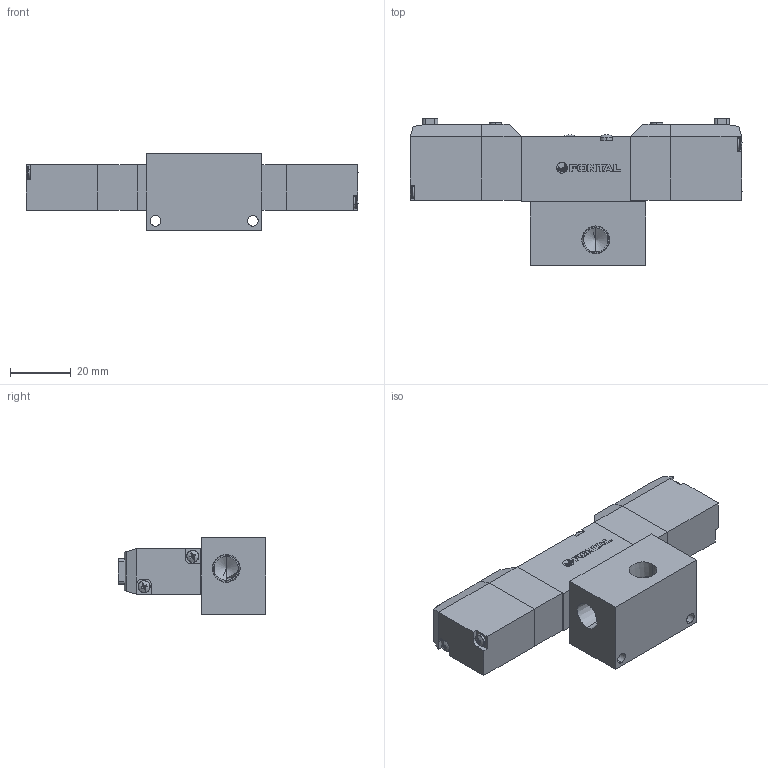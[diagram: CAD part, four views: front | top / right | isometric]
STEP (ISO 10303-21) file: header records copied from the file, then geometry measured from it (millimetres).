
FILE_DESCRIPTION (( 'STEP AP203' ), '1' );
FILE_NAME ('PCD345#-01-#-L-#.STEP', '2016-02-04T03:43:52', ( 'Sam Lin' ), ( '' ), 'SwSTEP 2.0', 'SolidWorks 2013', '' );
FILE_SCHEMA (( 'CONFIG_CONTROL_DESIGN' ));
Length unit declared in the file: metre
Products named in the file (9): PC-MARK; PC5-6; PC5-4; ISO 7045 - M2 x 10; ISO 7045 - M2.5 x 25; PC5-01-1; PC5-9-345; PCD345#-01-#-L-#; PC5-5
Assembly tree (15 placements, depth 2):
  PCD345#-01-#-L-#
    PC5-5  x2
    PC-MARK
    PC5-6  x2
    PC5-4  x2
    ISO 7045 - M2 x 10  x4
    ISO 7045 - M2.5 x 25  x2
    PC5-01-1
    PC5-9-345
Bounding box: 109.14 x 48.5 x 25 mm (x, y, z)
Volume: 53416.1 mm3; surface area: 20942.6 mm2
Topology: 21 solids, 21 shells, 539 faces, 1323 edges, 821 vertices
Faces by surface type: plane 294, cylinder 113, cone 88, bspline 44
Entity records: 10699 total; most frequent: CARTESIAN_POINT 2246, ORIENTED_EDGE 1514, DIRECTION 1512, EDGE_CURVE 757, AXIS2_PLACEMENT_3D 538, VERTEX_POINT 488, LINE 436, VECTOR 436
